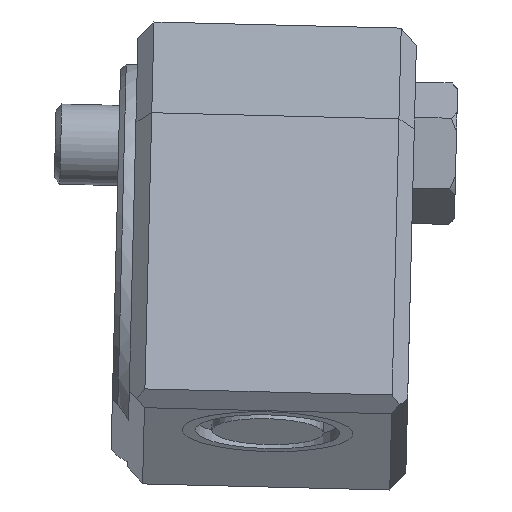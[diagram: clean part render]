
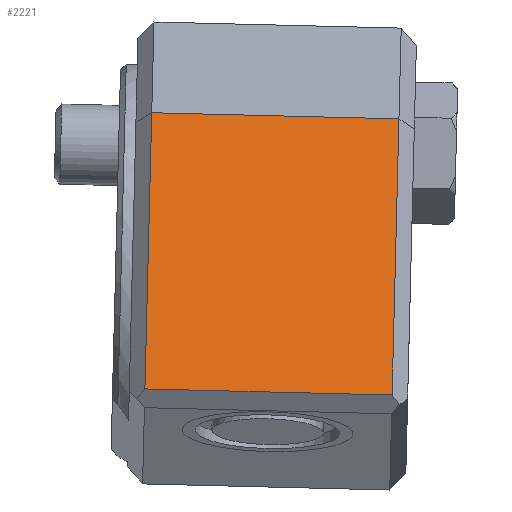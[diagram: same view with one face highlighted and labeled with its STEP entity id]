
A CAD part, top view. The second image highlights one B-rep face of the part: STEP entity #2221.
In plain terms, the highlighted planar face has unit normal (0.006, 0.23, 0.973).
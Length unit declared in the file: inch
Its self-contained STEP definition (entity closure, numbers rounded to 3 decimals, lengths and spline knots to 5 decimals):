
#130=LINE('',#3501,#261);
#135=LINE('',#3511,#266);
#137=LINE('',#3515,#268);
#138=LINE('',#3516,#269);
#261=VECTOR('',#2796,0.3937);
#266=VECTOR('',#2807,0.3937);
#268=VECTOR('',#2811,0.3937);
#269=VECTOR('',#2812,0.3937);
#424=FACE_OUTER_BOUND('',#554,.T.);
#554=EDGE_LOOP('',(#1515,#1516,#1517,#1518));
#883=VERTEX_POINT('',#3498);
#884=VERTEX_POINT('',#3500);
#886=VERTEX_POINT('',#3510);
#887=VERTEX_POINT('',#3514);
#1126=EDGE_CURVE('',#883,#884,#130,.T.);
#1131=EDGE_CURVE('',#884,#886,#135,.T.);
#1133=EDGE_CURVE('',#887,#883,#137,.T.);
#1134=EDGE_CURVE('',#886,#887,#138,.T.);
#1515=ORIENTED_EDGE('',*,*,#1126,.F.);
#1516=ORIENTED_EDGE('',*,*,#1133,.F.);
#1517=ORIENTED_EDGE('',*,*,#1134,.F.);
#1518=ORIENTED_EDGE('',*,*,#1131,.F.);
#2012=PLANE('',#2410);
#2221=ADVANCED_FACE('',(#424),#2012,.T.);
#2410=AXIS2_PLACEMENT_3D('',#3513,#2809,#2810);
#2796=DIRECTION('',(0.024,0.973,-0.23));
#2807=DIRECTION('',(1.,-0.025,0.));
#2809=DIRECTION('center_axis',(0.006,0.23,0.973));
#2810=DIRECTION('ref_axis',(-0.024,-0.973,0.23));
#2811=DIRECTION('',(-1.,0.025,0.));
#2812=DIRECTION('',(-0.024,-0.973,0.23));
#3498=CARTESIAN_POINT('',(-0.92357,-0.89548,1.11318));
#3500=CARTESIAN_POINT('',(-0.89945,0.08118,0.88198));
#3501=CARTESIAN_POINT('',(-0.90321,-0.07107,0.91802));
#3510=CARTESIAN_POINT('',(-0.0257,0.05959,0.88198));
#3511=CARTESIAN_POINT('',(-0.95455,0.08254,0.88198));
#3513=CARTESIAN_POINT('Origin',(-0.95455,0.08254,0.88198));
#3514=CARTESIAN_POINT('',(-0.04983,-0.91706,1.11318));
#3515=CARTESIAN_POINT('',(-0.97868,-0.89412,1.11318));
#3516=CARTESIAN_POINT('',(-0.02946,-0.09265,0.91802));
